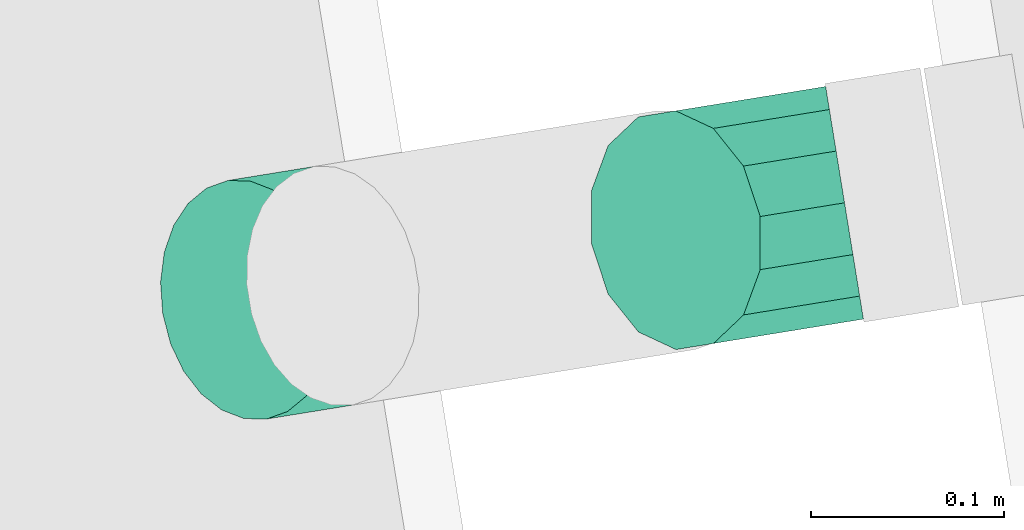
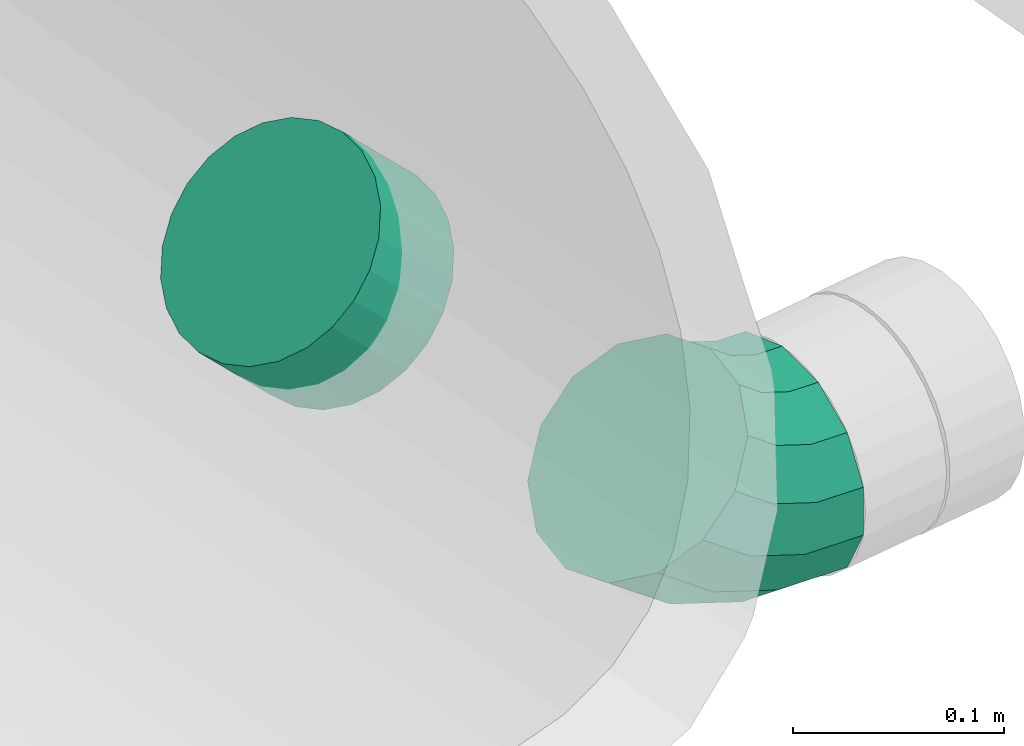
# One storey, part 30 of 39: 2 flow fittings.
"""IFC2X3 building model written with IfcOpenShell, lengths in millimetres."""

from ifc_helpers import new_model, entity, si_unit, converted_unit, derived_unit, direction, frame, origin, origin_with_axes, place, context, subcontext, project, spatial, faceted_brep, source, transform, mapped, material, type_object, element, save


model = new_model("IFC2X3")

# Units and contexts
plan_context = context("Plan", 3, precision=1e-05, world=origin_with_axes())
model_context = context("Model", 3, precision=0.01, world=origin(), true_north=direction((6.12323399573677e-17, 1.0)))
body_context = subcontext(model_context, "Body", "Model", "MODEL_VIEW")
ifc_project = project(units=[converted_unit("PLANEANGLEUNIT", "DEGREE", entity("IfcPositiveLengthMeasure", 0.0174532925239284), si_unit("PLANEANGLEUNIT", "RADIAN"), dimensions=[0, 0, 0, 0, 0, 0, 0]), si_unit("AREAUNIT", "SQUARE_METRE"), si_unit("LENGTHUNIT", "METRE", prefix="MILLI"), si_unit("MASSUNIT", "GRAM", prefix="KILO"), si_unit("POWERUNIT", "WATT"), si_unit("PRESSUREUNIT", "PASCAL", prefix="KILO"), si_unit("FORCEUNIT", "NEWTON", prefix="KILO"), si_unit("ELECTRICVOLTAGEUNIT", "VOLT"), si_unit("ELECTRICCURRENTUNIT", "AMPERE"), si_unit("THERMODYNAMICTEMPERATUREUNIT", "DEGREE_CELSIUS"), si_unit("TIMEUNIT", "SECOND"), si_unit("VOLUMEUNIT", "CUBIC_METRE"), derived_unit("LINEARVELOCITYUNIT", [(si_unit("LENGTHUNIT", "METRE"), 1), (si_unit("TIMEUNIT", "SECOND"), -1)]), derived_unit("VOLUMETRICFLOWRATEUNIT", [(si_unit("VOLUMEUNIT", "CUBIC_METRE"), 1), (si_unit("TIMEUNIT", "SECOND"), -1)]), derived_unit("THERMALTRANSMITTANCEUNIT", [(si_unit("POWERUNIT", "WATT"), 1), (si_unit("THERMODYNAMICTEMPERATUREUNIT", "KELVIN"), -1), (si_unit("AREAUNIT", "SQUARE_METRE"), -1)]), derived_unit("SOUNDPRESSUREUNIT", [(si_unit("PRESSUREUNIT", "PASCAL"), 1)])], contexts=[model_context, plan_context])

# Site, building, storey
site_placement = place(None, frame((-0.00071070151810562, 0.00438415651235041, 0.0), z_axis=(0.0, 0.0, 1.0), x_axis=(-0.160236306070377, 0.987078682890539, 0.0)))
site = spatial("IfcSite", under=ifc_project, at=site_placement, Name="Default", CompositionType="ELEMENT")
building_placement = place(site_placement, origin_with_axes())
building = spatial("IfcBuilding", under=site, at=building_placement, CompositionType="ELEMENT")
storey_placement = place(building_placement, frame((0.0, 0.0, 58999.9999999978), z_axis=(0.0, 0.0, 1.0), x_axis=(1.0, 0.0, 0.0)))
storey = spatial("IfcBuildingStorey", under=building, at=storey_placement, Name="Nivå F", CompositionType="ELEMENT", Elevation=58999.9999999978)

# Flow fittings
ifc_material = material(Name="<Unnamed>")
duct_fitting_type_1 = type_object("IfcDuctFittingType", Name="magicirc_tapoutlet_1:magicirc_tapoutlet_001", PredefinedType="NOTDEFINED", material=ifc_material)
shared_shape_1 = source(origin(), body_context, "Body", "Brep", [
    faceted_brep([(-27.6373611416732, -16.1761903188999, -60.3703641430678), (-27.6373611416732, -31.2499999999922, -54.1265877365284), (-27.6373611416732, -44.1941738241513, -44.1941738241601), (-27.6373611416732, -54.1265877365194, -31.2500000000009), (-27.6373611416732, -60.3703641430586, -16.1761903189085), (-27.6373611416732, -62.4999999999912, 0.0), (-27.6373611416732, -60.3703641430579, 16.176190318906), (-27.6373611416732, -54.1265877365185, 31.2499999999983), (-27.6373611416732, -44.1941738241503, 44.1941738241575), (-27.6373611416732, -31.249999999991, 54.1265877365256), (-27.6373611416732, -16.1761903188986, 60.3703641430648), (-27.6373611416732, 0.0, 62.4999999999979), (-27.6373611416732, 16.1761903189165, 60.3703641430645), (-27.6373611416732, 31.2500000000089, 54.1265877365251), (-27.6373611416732, 44.1941738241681, 44.1941738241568), (-27.6373611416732, 54.1265877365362, 31.2499999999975), (-27.6373611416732, 60.3703641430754, 16.1761903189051), (-27.6373611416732, 62.50000000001, 0.0), (-27.6373611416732, 60.3703641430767, -16.1761903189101), (-27.6373611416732, 54.1265877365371, -31.2500000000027), (-27.6373611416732, 44.1941738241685, -44.194173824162), (-27.6373611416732, 31.250000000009, -54.1265877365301), (-27.6373611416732, 16.1761903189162, -60.3703641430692), (-27.6373611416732, 0.0, -62.5000000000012), (0.0, -16.1761903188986, 60.3703641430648), (35.860625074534, -16.1761903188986, 60.3703641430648), (35.860625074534, 0.0, 62.4999999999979), (0.0, 0.0, 62.4999999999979), (0.0, -31.249999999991, 54.1265877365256), (35.860625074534, -31.249999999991, 54.1265877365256), (0.0, -44.1941738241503, 44.1941738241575), (35.860625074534, -44.1941738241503, 44.1941738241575), (0.0, -60.3703641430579, 16.176190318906), (35.860625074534, -60.3703641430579, 16.176190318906), (35.860625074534, -54.1265877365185, 31.2499999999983), (0.0, -54.1265877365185, 31.2499999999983), (0.0, -62.4999999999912, 0.0), (35.860625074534, -62.4999999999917, 0.0), (0.0, -60.3703641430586, -16.1761903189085), (35.860625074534, -60.3703641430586, -16.1761903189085), (0.0, -54.1265877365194, -31.2500000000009), (35.860625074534, -54.1265877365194, -31.2500000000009), (0.0, -44.1941738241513, -44.1941738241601), (35.860625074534, -44.1941738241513, -44.1941738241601), (0.0, -16.1761903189, -60.3703641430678), (35.860625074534, -16.1761903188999, -60.3703641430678), (35.860625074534, -31.2499999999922, -54.1265877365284), (0.0, -31.2499999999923, -54.1265877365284), (0.0, 0.0, -62.5000000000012), (35.860625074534, 0.0, -62.5000000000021), (0.0, 16.1761903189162, -60.3703641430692), (35.860625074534, 16.1761903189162, -60.3703641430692), (0.0, 31.250000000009, -54.1265877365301), (35.860625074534, 31.250000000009, -54.1265877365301), (0.0, 44.1941738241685, -44.194173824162), (35.860625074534, 44.1941738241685, -44.194173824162), (0.0, 60.3703641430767, -16.1761903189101), (35.860625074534, 60.3703641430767, -16.1761903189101), (35.860625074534, 54.1265877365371, -31.2500000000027), (0.0, 54.1265877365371, -31.2500000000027), (0.0, 62.50000000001, 0.0), (35.860625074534, 62.5000000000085, 0.0), (0.0, 60.3703641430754, 16.1761903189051), (35.860625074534, 60.3703641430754, 16.1761903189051), (0.0, 54.1265877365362, 31.2499999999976), (35.860625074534, 54.1265877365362, 31.2499999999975), (0.0, 44.1941738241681, 44.1941738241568), (35.860625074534, 44.1941738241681, 44.1941738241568), (0.0, 16.1761903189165, 60.3703641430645), (35.860625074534, 16.1761903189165, 60.3703641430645), (35.860625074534, 31.2500000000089, 54.1265877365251), (0.0, 31.2500000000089, 54.1265877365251)], [[[0, 1, 2, 3, 4, 5, 6, 7, 8, 9, 10, 11, 12, 13, 14, 15, 16, 17, 18, 19, 20, 21, 22, 23]], [[24, 25, 26, 27, 11, 10]], [[28, 29, 25, 24, 10, 9]], [[8, 30, 31, 29, 28, 9]], [[32, 33, 34, 35, 7, 6]], [[36, 37, 33, 32, 6, 5]], [[7, 35, 34, 31, 30, 8]], [[38, 39, 37, 36, 5, 4]], [[40, 41, 39, 38, 4, 3]], [[2, 42, 43, 41, 40, 3]], [[44, 45, 46, 47, 1, 0]], [[48, 49, 45, 44, 0, 23]], [[1, 47, 46, 43, 42, 2]], [[50, 51, 49, 48, 23, 22]], [[52, 53, 51, 50, 22, 21]], [[20, 54, 55, 53, 52, 21]], [[56, 57, 58, 59, 19, 18]], [[60, 61, 57, 56, 18, 17]], [[19, 59, 58, 55, 54, 20]], [[62, 63, 61, 60, 17, 16]], [[64, 65, 63, 62, 16, 15]], [[14, 66, 67, 65, 64, 15]], [[68, 69, 70, 71, 13, 12]], [[27, 26, 69, 68, 12, 11]], [[13, 71, 70, 67, 66, 14]], [[49, 51, 53, 55, 58, 57, 61, 63, 65, 67, 70, 69, 26, 25, 29, 31, 34, 33, 37, 39, 41, 43, 46, 45]]]),
    faceted_brep([(35.8606250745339, 0.0, -62.5000000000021), (35.8606250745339, 16.1761903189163, -60.3703641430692), (35.8606250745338, 31.2500000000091, -54.1265877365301), (35.8606250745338, 44.1941738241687, -44.194173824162), (35.8606250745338, 54.1265877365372, -31.2500000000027), (35.8606250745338, 60.3703641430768, -16.1761903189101), (35.8606250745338, 62.5000000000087, 0.0), (35.8606250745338, 60.3703641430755, 16.1761903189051), (35.8606250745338, 54.1265877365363, 31.2499999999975), (35.8606250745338, 44.1941738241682, 44.1941738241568), (35.8606250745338, 31.250000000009, 54.1265877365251), (35.8606250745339, 16.1761903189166, 60.3703641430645), (35.8606250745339, 0.0, 62.4999999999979), (35.860625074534, -16.1761903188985, 60.3703641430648), (35.860625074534, -31.2499999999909, 54.1265877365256), (35.860625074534, -44.1941738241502, 44.1941738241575), (35.8606250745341, -54.1265877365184, 31.2499999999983), (35.8606250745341, -60.3703641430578, 16.176190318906), (35.8606250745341, -62.4999999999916, 0.0), (35.8606250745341, -60.3703641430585, -16.1761903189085), (35.8606250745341, -54.1265877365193, -31.2500000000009), (35.860625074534, -44.1941738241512, -44.1941738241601), (35.860625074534, -31.2499999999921, -54.1265877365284), (35.860625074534, -16.1761903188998, -60.3703641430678), (0.0, 0.0, 62.4999999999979), (-27.6373611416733, 0.0, 62.4999999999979), (-27.6373611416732, -16.1761903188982, 60.3703641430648), (0.0, -16.1761903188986, 60.3703641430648), (-27.6373611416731, -31.2499999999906, 54.1265877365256), (0.0, -31.249999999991, 54.1265877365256), (0.0, -44.1941738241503, 44.1941738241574), (-27.6373611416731, -44.1941738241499, 44.1941738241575), (0.0, -54.1265877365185, 31.2499999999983), (-27.6373611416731, -54.1265877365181, 31.2499999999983), (-27.6373611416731, -60.3703641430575, 16.176190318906), (0.0, -60.3703641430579, 16.176190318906), (-27.637361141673, -62.4999999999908, 0.0), (0.0, -62.4999999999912, 0.0), (-27.6373611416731, -60.3703641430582, -16.1761903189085), (0.0, -60.3703641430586, -16.1761903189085), (-27.6373611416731, -54.126587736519, -31.2500000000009), (0.0, -54.1265877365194, -31.2500000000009), (0.0, -44.1941738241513, -44.1941738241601), (-27.6373611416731, -44.1941738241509, -44.1941738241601), (0.0, -31.2499999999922, -54.1265877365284), (-27.6373611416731, -31.2499999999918, -54.1265877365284), (-27.6373611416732, -16.1761903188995, -60.3703641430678), (0.0, -16.1761903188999, -60.3703641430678), (-27.6373611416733, 0.0, -62.5000000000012), (0.0, 0.0, -62.5000000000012), (-27.6373611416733, 16.1761903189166, -60.3703641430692), (0.0, 16.1761903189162, -60.3703641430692), (-27.6373611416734, 31.2500000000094, -54.1265877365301), (0.0, 31.250000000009, -54.1265877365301), (0.0, 44.1941738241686, -44.194173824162), (-27.6373611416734, 44.194173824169, -44.194173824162), (0.0, 54.1265877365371, -31.2500000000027), (-27.6373611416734, 54.1265877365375, -31.2500000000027), (-27.6373611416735, 60.3703641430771, -16.1761903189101), (0.0, 60.3703641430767, -16.1761903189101), (-27.6373611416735, 62.5000000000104, 0.0), (0.0, 62.50000000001, 0.0), (-27.6373611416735, 60.3703641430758, 16.1761903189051), (0.0, 60.3703641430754, 16.1761903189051), (-27.6373611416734, 54.1265877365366, 31.2499999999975), (0.0, 54.1265877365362, 31.2499999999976), (0.0, 44.1941738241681, 44.1941738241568), (-27.6373611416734, 44.1941738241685, 44.1941738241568), (0.0, 31.2500000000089, 54.1265877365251), (-27.6373611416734, 31.2500000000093, 54.1265877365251), (-27.6373611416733, 16.1761903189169, 60.3703641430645), (0.0, 16.1761903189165, 60.3703641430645)], [[[0, 1, 2, 3, 4, 5, 6, 7, 8, 9, 10, 11, 12, 13, 14, 15, 16, 17, 18, 19, 20, 21, 22, 23]], [[13, 12, 24, 25, 26, 27]], [[14, 13, 27, 26, 28, 29]], [[30, 15, 14, 29, 28, 31]], [[17, 16, 32, 33, 34, 35]], [[18, 17, 35, 34, 36, 37]], [[32, 16, 15, 30, 31, 33]], [[19, 18, 37, 36, 38, 39]], [[20, 19, 39, 38, 40, 41]], [[42, 21, 20, 41, 40, 43]], [[23, 22, 44, 45, 46, 47]], [[0, 23, 47, 46, 48, 49]], [[44, 22, 21, 42, 43, 45]], [[1, 0, 49, 48, 50, 51]], [[2, 1, 51, 50, 52, 53]], [[54, 3, 2, 53, 52, 55]], [[5, 4, 56, 57, 58, 59]], [[6, 5, 59, 58, 60, 61]], [[56, 4, 3, 54, 55, 57]], [[7, 6, 61, 60, 62, 63]], [[8, 7, 63, 62, 64, 65]], [[66, 9, 8, 65, 64, 67]], [[11, 10, 68, 69, 70, 71]], [[12, 11, 71, 70, 25, 24]], [[68, 10, 9, 66, 67, 69]], [[46, 45, 43, 40, 38, 36, 34, 33, 31, 28, 26, 25, 70, 69, 67, 64, 62, 60, 58, 57, 55, 52, 50, 48]]]),
    faceted_brep([(-27.6373611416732, -16.1761903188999, -60.3703641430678), (-27.6373611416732, -31.2499999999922, -54.1265877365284), (-27.6373611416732, -44.1941738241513, -44.1941738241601), (-27.6373611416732, -54.1265877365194, -31.2500000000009), (-27.6373611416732, -60.3703641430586, -16.1761903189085), (-27.6373611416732, -62.4999999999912, 0.0), (-27.6373611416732, -60.3703641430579, 16.176190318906), (-27.6373611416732, -54.1265877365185, 31.2499999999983), (-27.6373611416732, -44.1941738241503, 44.1941738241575), (-27.6373611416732, -31.249999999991, 54.1265877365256), (-27.6373611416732, -16.1761903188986, 60.3703641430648), (-27.6373611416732, 0.0, 62.4999999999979), (-27.6373611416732, 16.1761903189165, 60.3703641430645), (-27.6373611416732, 31.2500000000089, 54.1265877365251), (-27.6373611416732, 44.1941738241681, 44.1941738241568), (-27.6373611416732, 54.1265877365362, 31.2499999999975), (-27.6373611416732, 60.3703641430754, 16.1761903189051), (-27.6373611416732, 62.50000000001, 0.0), (-27.6373611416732, 60.3703641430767, -16.1761903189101), (-27.6373611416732, 54.1265877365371, -31.2500000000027), (-27.6373611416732, 44.1941738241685, -44.194173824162), (-27.6373611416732, 31.250000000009, -54.1265877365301), (-27.6373611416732, 16.1761903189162, -60.3703641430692), (-27.6373611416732, 0.0, -62.5000000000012), (0.0, -16.1761903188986, 60.3703641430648), (35.860625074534, -16.1761903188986, 60.3703641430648), (35.860625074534, 0.0, 62.4999999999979), (0.0, 0.0, 62.4999999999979), (0.0, -31.249999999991, 54.1265877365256), (35.860625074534, -31.249999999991, 54.1265877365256), (0.0, -44.1941738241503, 44.1941738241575), (35.860625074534, -44.1941738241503, 44.1941738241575), (0.0, -60.3703641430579, 16.176190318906), (35.860625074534, -60.3703641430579, 16.176190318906), (35.860625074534, -54.1265877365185, 31.2499999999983), (0.0, -54.1265877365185, 31.2499999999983), (0.0, -62.4999999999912, 0.0), (35.860625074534, -62.4999999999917, 0.0), (0.0, -60.3703641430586, -16.1761903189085), (35.860625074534, -60.3703641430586, -16.1761903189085), (0.0, -54.1265877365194, -31.2500000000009), (35.860625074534, -54.1265877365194, -31.2500000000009), (0.0, -44.1941738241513, -44.1941738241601), (35.860625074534, -44.1941738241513, -44.1941738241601), (0.0, -16.1761903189, -60.3703641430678), (35.860625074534, -16.1761903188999, -60.3703641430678), (35.860625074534, -31.2499999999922, -54.1265877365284), (0.0, -31.2499999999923, -54.1265877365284), (0.0, 0.0, -62.5000000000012), (35.860625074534, 0.0, -62.5000000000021), (0.0, 16.1761903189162, -60.3703641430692), (35.860625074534, 16.1761903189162, -60.3703641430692), (0.0, 31.250000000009, -54.1265877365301), (35.860625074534, 31.250000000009, -54.1265877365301), (0.0, 44.1941738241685, -44.194173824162), (35.860625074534, 44.1941738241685, -44.194173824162), (0.0, 60.3703641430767, -16.1761903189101), (35.860625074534, 60.3703641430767, -16.1761903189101), (35.860625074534, 54.1265877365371, -31.2500000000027), (0.0, 54.1265877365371, -31.2500000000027), (0.0, 62.50000000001, 0.0), (35.860625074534, 62.5000000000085, 0.0), (0.0, 60.3703641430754, 16.1761903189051), (35.860625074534, 60.3703641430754, 16.1761903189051), (0.0, 54.1265877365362, 31.2499999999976), (35.860625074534, 54.1265877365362, 31.2499999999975), (0.0, 44.1941738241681, 44.1941738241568), (35.860625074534, 44.1941738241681, 44.1941738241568), (0.0, 16.1761903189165, 60.3703641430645), (35.860625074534, 16.1761903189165, 60.3703641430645), (35.860625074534, 31.2500000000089, 54.1265877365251), (0.0, 31.2500000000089, 54.1265877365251)], [[[0, 1, 2, 3, 4, 5, 6, 7, 8, 9, 10, 11, 12, 13, 14, 15, 16, 17, 18, 19, 20, 21, 22, 23]], [[24, 25, 26, 27, 11, 10]], [[28, 29, 25, 24, 10, 9]], [[8, 30, 31, 29, 28, 9]], [[32, 33, 34, 35, 7, 6]], [[36, 37, 33, 32, 6, 5]], [[7, 35, 34, 31, 30, 8]], [[38, 39, 37, 36, 5, 4]], [[40, 41, 39, 38, 4, 3]], [[2, 42, 43, 41, 40, 3]], [[44, 45, 46, 47, 1, 0]], [[48, 49, 45, 44, 0, 23]], [[1, 47, 46, 43, 42, 2]], [[50, 51, 49, 48, 23, 22]], [[52, 53, 51, 50, 22, 21]], [[20, 54, 55, 53, 52, 21]], [[56, 57, 58, 59, 19, 18]], [[60, 61, 57, 56, 18, 17]], [[19, 59, 58, 55, 54, 20]], [[62, 63, 61, 60, 17, 16]], [[64, 65, 63, 62, 16, 15]], [[14, 66, 67, 65, 64, 15]], [[68, 69, 70, 71, 13, 12]], [[27, 26, 69, 68, 12, 11]], [[13, 71, 70, 67, 66, 14]], [[49, 51, 53, 55, 58, 57, 61, 63, 65, 67, 70, 69, 26, 25, 29, 31, 34, 33, 37, 39, 41, 43, 46, 45]]]),
])
flow_fitting_1_placement = place(storey_placement, frame((768695.275149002, -502705.111940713, 2991.72276707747), z_axis=(3.22539171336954e-09, 0.707106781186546, -0.707106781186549), x_axis=(1.33600097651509e-09, -0.707106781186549, -0.707106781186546)))
element("IfcFlowFitting", 1, at=flow_fitting_1_placement, inside=storey, type_object=duct_fitting_type_1, material=ifc_material, Name="magicirc_tapoutlet_1:magicirc_tapoutlet_001", ObjectType="magicirc_tapoutlet_1:magicirc_tapoutlet_001", context=body_context, shape_type="MappedRepresentation", body=[
    mapped(shared_shape_1, transform((0.0, 0.0, 0.0), scale=1.0)),
])
duct_fitting_type_2 = type_object("IfcDuctFittingType", Name="magicirc_elbow_full_radius_1:magicirc_elbow_full_radius_001", PredefinedType="NOTDEFINED", material=ifc_material)
shared_shape_2 = source(origin(), body_context, "Body", "Brep", [
    faceted_brep([(-3.2481243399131, -56.1110924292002, 0.0), (-4.85007078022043, -50.1325469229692, 27.1177336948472), (-51.7766952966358, -56.3105542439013, 27.1177336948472), (-51.7766952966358, -62.5, 0.0), (-9.3386249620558, -33.3810346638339, 48.8644676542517), (-51.7766952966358, -38.968112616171, 48.8644676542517), (-15.8247736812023, -9.17439809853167, 60.9329945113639), (-51.7766952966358, -13.9075583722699, 60.9329945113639), (-23.0238556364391, 17.6929415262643, 60.932994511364), (-51.7766952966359, 13.9075583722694, 60.932994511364), (-29.5100043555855, 41.8995780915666, 48.8644676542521), (-51.7766952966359, 38.9681126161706, 48.8644676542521), (-33.9985585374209, 58.6510903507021, 27.1177336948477), (-51.7766952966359, 56.3105542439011, 27.1177336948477), (-35.6005049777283, 64.6296358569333, 0.0), (-51.7766952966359, 62.5, 0.0), (-33.998558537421, 58.6510903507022, -27.1177336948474), (-51.7766952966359, 56.3105542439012, -27.1177336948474), (-29.5100043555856, 41.8995780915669, -48.8644676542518), (-51.7766952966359, 38.9681126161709, -48.8644676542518), (-23.0238556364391, 17.6929415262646, -60.932994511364), (-51.7766952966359, 13.9075583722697, -60.932994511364), (-15.8247736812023, -9.17439809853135, -60.932994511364), (-51.7766952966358, -13.9075583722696, -60.932994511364), (-9.33862496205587, -33.3810346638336, -48.8644676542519), (-51.7766952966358, -38.9681126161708, -48.8644676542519), (-4.85007078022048, -50.132546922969, -27.1177336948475), (-51.7766952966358, -56.3105542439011, -27.1177336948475), (41.9733047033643, -37.379763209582, 0.0), (38.8785818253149, -32.0195459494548, 27.1177336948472), (30.2073610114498, -17.0005509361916, 48.8644676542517), (17.6770838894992, 4.7025256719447, 60.9329945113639), (3.76952551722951, 28.7911233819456, 60.932994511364), (-8.7607516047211, 50.494199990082, 48.8644676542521), (-17.4319724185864, 65.5131950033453, 27.1177336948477), (-20.5266952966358, 70.8734122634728, 0.0), (-17.4319724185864, 65.5131950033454, -27.1177336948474), (-8.76075160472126, 50.4941999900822, -48.8644676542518), (3.76952551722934, 28.7911233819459, -60.932994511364), (17.677083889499, 4.70252567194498, -60.932994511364), (30.2073610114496, -17.0005509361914, -48.8644676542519), (38.8785818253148, -32.0195459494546, -27.1177336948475), (80.8058261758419, -7.58252147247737, 0.0), (76.4292271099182, -3.20592240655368, 27.1177336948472), (64.1662690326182, 9.05703567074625, 48.8644676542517), (46.4457811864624, 26.7775235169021, 60.9329945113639), (26.7775235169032, 46.4457811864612, 60.932994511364), (9.05703567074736, 64.1662690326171, 48.8644676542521), (-3.20592240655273, 76.4292271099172, 27.1177336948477), (-7.5825214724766, 80.805826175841, 0.0), (-3.20592240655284, 76.4292271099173, -27.1177336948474), (9.05703567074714, 64.1662690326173, -48.8644676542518), (26.777523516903, 46.4457811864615, -60.932994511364), (46.4457811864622, 26.7775235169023, -60.932994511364), (64.166269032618, 9.05703567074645, -48.8644676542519), (76.4292271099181, -3.20592240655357, -27.1177336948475)], [[[0, 1, 2, 3]], [[1, 4, 5, 2]], [[4, 6, 7, 5]], [[6, 8, 9, 7]], [[8, 10, 11, 9]], [[10, 12, 13, 11]], [[12, 14, 15, 13]], [[14, 16, 17, 15]], [[16, 18, 19, 17]], [[18, 20, 21, 19]], [[20, 22, 23, 21]], [[22, 24, 25, 23]], [[24, 26, 27, 25]], [[26, 0, 3, 27]], [[28, 29, 1, 0]], [[29, 30, 4, 1]], [[30, 31, 6, 4]], [[31, 32, 8, 6]], [[32, 33, 10, 8]], [[33, 34, 12, 10]], [[34, 35, 14, 12]], [[35, 36, 16, 14]], [[36, 37, 18, 16]], [[37, 38, 20, 18]], [[38, 39, 22, 20]], [[39, 40, 24, 22]], [[40, 41, 26, 24]], [[41, 28, 0, 26]], [[42, 43, 29, 28]], [[43, 44, 30, 29]], [[44, 45, 31, 30]], [[45, 46, 32, 31]], [[46, 47, 33, 32]], [[47, 48, 34, 33]], [[48, 49, 35, 34]], [[49, 50, 36, 35]], [[50, 51, 37, 36]], [[51, 52, 38, 37]], [[52, 53, 39, 38]], [[53, 54, 40, 39]], [[54, 55, 41, 40]], [[55, 42, 28, 41]], [[3, 2, 5, 7, 9, 11, 13, 15, 17, 19, 21, 23, 25, 27]], [[55, 54, 53, 52, 51, 50, 49, 48, 47, 46, 45, 44, 43, 42]]]),
])
flow_fitting_2_placement = place(storey_placement, frame((768695.275149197, -502946.83470779, 2750.0), z_axis=(-1.0, 1.9626155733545e-17, -1.96261557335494e-17), x_axis=(0.0, -0.707106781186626, -0.707106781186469)))
element("IfcFlowFitting", 2, at=flow_fitting_2_placement, inside=storey, type_object=duct_fitting_type_2, material=ifc_material, Name="magicirc_elbow_full_radius_1:magicirc_elbow_full_radius_001", ObjectType="magicirc_elbow_full_radius_1:magicirc_elbow_full_radius_001", context=body_context, shape_type="MappedRepresentation", body=[
    mapped(shared_shape_2, transform((0.0, 0.0, 0.0), scale=1.0)),
])

save(model, "model.ifc")
